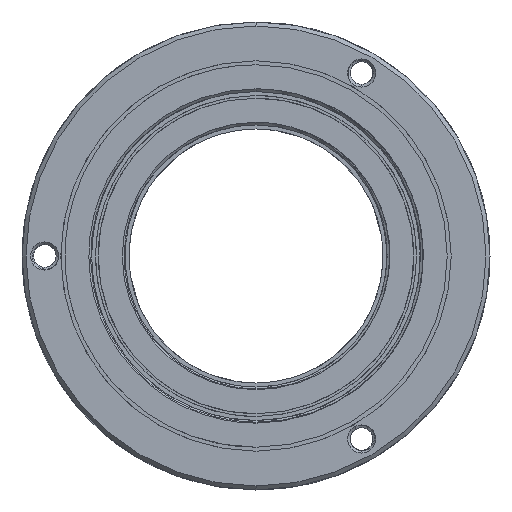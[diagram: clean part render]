
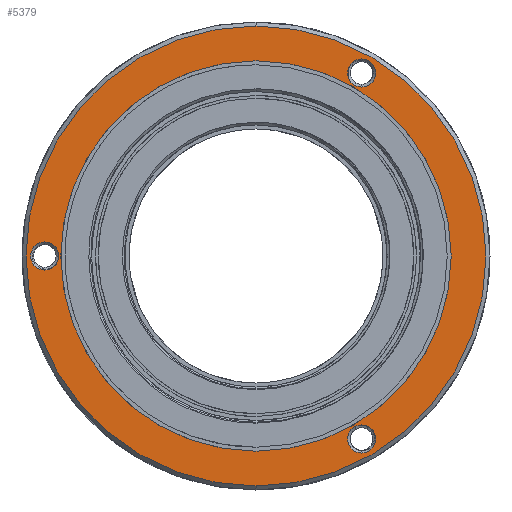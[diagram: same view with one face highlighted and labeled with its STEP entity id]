
A CAD part, left-side view. The second image highlights one B-rep face of the part: STEP entity #5379.
In plain terms, the highlighted planar face has unit normal (-1, 0, 0).
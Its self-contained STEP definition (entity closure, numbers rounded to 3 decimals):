
#85 = EDGE_CURVE ( 'NONE', #23357, #7640, #23876, .T. ) ;
#316 = DIRECTION ( 'NONE',  ( 0., 0., -1. ) ) ;
#361 = DIRECTION ( 'NONE',  ( 0., 0., 1. ) ) ;
#1189 = PLANE ( 'NONE',  #7612 ) ;
#1528 = CARTESIAN_POINT ( 'NONE',  ( 9., -7.9, -12.633 ) ) ;
#1700 = VERTEX_POINT ( 'NONE', #2314 ) ;
#1842 = AXIS2_PLACEMENT_3D ( 'NONE', #6564, #19756, #8485 ) ;
#1971 = EDGE_LOOP ( 'NONE', ( #11881, #4829 ) ) ;
#2210 = VERTEX_POINT ( 'NONE', #7116 ) ;
#2314 = CARTESIAN_POINT ( 'NONE',  ( 9., -7.9, -14.733 ) ) ;
#2373 = CARTESIAN_POINT ( 'NONE',  ( 9., 15.8, 0. ) ) ;
#2509 = VERTEX_POINT ( 'NONE', #20626 ) ;
#3102 = CARTESIAN_POINT ( 'NONE',  ( 9., 0., -17.2 ) ) ;
#3136 = EDGE_CURVE ( 'NONE', #2210, #2509, #9412, .T. ) ;
#3149 = CARTESIAN_POINT ( 'NONE',  ( 9., 17.5, 0. ) ) ;
#3241 = CARTESIAN_POINT ( 'NONE',  ( 9., 0., 0. ) ) ;
#4098 = ORIENTED_EDGE ( 'NONE', *, *, #85, .F. ) ;
#4147 = AXIS2_PLACEMENT_3D ( 'NONE', #22858, #11593, #361 ) ;
#4236 = DIRECTION ( 'NONE',  ( 0., 0., 1. ) ) ;
#4776 = AXIS2_PLACEMENT_3D ( 'NONE', #22815, #11557, #316 ) ;
#4816 = CARTESIAN_POINT ( 'NONE',  ( 9., -7.9, -13.683 ) ) ;
#4818 = AXIS2_PLACEMENT_3D ( 'NONE', #5707, #18878, #7619 ) ;
#4829 = ORIENTED_EDGE ( 'NONE', *, *, #20375, .F. ) ;
#4840 = DIRECTION ( 'NONE',  ( -1., 0., 0. ) ) ;
#4854 = CARTESIAN_POINT ( 'NONE',  ( 9., -7.9, 14.733 ) ) ;
#5031 = DIRECTION ( 'NONE',  ( 0., 0., -1. ) ) ;
#5113 = DIRECTION ( 'NONE',  ( 0., 0., -1. ) ) ;
#5379 = ADVANCED_FACE ( 'NONE', ( #13989, #19011, #9014, #18415, #13395 ), #1189, .F. ) ;
#5707 = CARTESIAN_POINT ( 'NONE',  ( 9., 15.8, 0. ) ) ;
#5725 = VERTEX_POINT ( 'NONE', #22414 ) ;
#5734 = VERTEX_POINT ( 'NONE', #11238 ) ;
#5833 = DIRECTION ( 'NONE',  ( -1., 0., 0. ) ) ;
#6564 = CARTESIAN_POINT ( 'NONE',  ( 9., -7.9, -13.683 ) ) ;
#6700 = DIRECTION ( 'NONE',  ( 0., 0., 1. ) ) ;
#7082 = ORIENTED_EDGE ( 'NONE', *, *, #11158, .F. ) ;
#7116 = CARTESIAN_POINT ( 'NONE',  ( 9., 0., 14.6 ) ) ;
#7202 = ORIENTED_EDGE ( 'NONE', *, *, #20725, .F. ) ;
#7612 = AXIS2_PLACEMENT_3D ( 'NONE', #3149, #16277, #5031 ) ;
#7619 = DIRECTION ( 'NONE',  ( 0., 0., 1. ) ) ;
#7640 = VERTEX_POINT ( 'NONE', #4854 ) ;
#7672 = CARTESIAN_POINT ( 'NONE',  ( 9., 0., 0. ) ) ;
#7854 = CIRCLE ( 'NONE', #4776, 17.2 ) ;
#8485 = DIRECTION ( 'NONE',  ( 0., 0., 1. ) ) ;
#9014 = FACE_BOUND ( 'NONE', #10460, .T. ) ;
#9412 = CIRCLE ( 'NONE', #4147, 14.6 ) ;
#9572 = DIRECTION ( 'NONE',  ( 0., 0., 1. ) ) ;
#10013 = AXIS2_PLACEMENT_3D ( 'NONE', #7672, #20830, #9572 ) ;
#10460 = EDGE_LOOP ( 'NONE', ( #21957, #14307 ) ) ;
#10771 = EDGE_CURVE ( 'NONE', #7640, #23357, #11122, .T. ) ;
#11122 = CIRCLE ( 'NONE', #19574, 1.05 ) ;
#11158 = EDGE_CURVE ( 'NONE', #11458, #5734, #7854, .T. ) ;
#11201 = EDGE_CURVE ( 'NONE', #24246, #5725, #19336, .T. ) ;
#11238 = CARTESIAN_POINT ( 'NONE',  ( 9., 0., 17.2 ) ) ;
#11389 = EDGE_CURVE ( 'NONE', #1700, #16698, #14748, .T. ) ;
#11454 = CARTESIAN_POINT ( 'NONE',  ( 9., -7.9, 13.683 ) ) ;
#11458 = VERTEX_POINT ( 'NONE', #3102 ) ;
#11557 = DIRECTION ( 'NONE',  ( 1., 0., 0. ) ) ;
#11576 = CIRCLE ( 'NONE', #10013, 14.6 ) ;
#11593 = DIRECTION ( 'NONE',  ( -1., 0., 0. ) ) ;
#11881 = ORIENTED_EDGE ( 'NONE', *, *, #3136, .F. ) ;
#13292 = AXIS2_PLACEMENT_3D ( 'NONE', #3241, #16361, #5113 ) ;
#13293 = CARTESIAN_POINT ( 'NONE',  ( 9., 15.8, 1.05 ) ) ;
#13395 = FACE_OUTER_BOUND ( 'NONE', #13563, .T. ) ;
#13563 = EDGE_LOOP ( 'NONE', ( #7082, #7202 ) ) ;
#13989 = FACE_BOUND ( 'NONE', #1971, .T. ) ;
#14021 = ORIENTED_EDGE ( 'NONE', *, *, #21384, .F. ) ;
#14307 = ORIENTED_EDGE ( 'NONE', *, *, #11389, .F. ) ;
#14412 = ORIENTED_EDGE ( 'NONE', *, *, #11201, .F. ) ;
#14748 = CIRCLE ( 'NONE', #17629, 1.05 ) ;
#15097 = EDGE_CURVE ( 'NONE', #16698, #1700, #23149, .T. ) ;
#15480 = DIRECTION ( 'NONE',  ( -1., 0., 0. ) ) ;
#16095 = CARTESIAN_POINT ( 'NONE',  ( 9., -7.9, 13.683 ) ) ;
#16105 = AXIS2_PLACEMENT_3D ( 'NONE', #2373, #15480, #4236 ) ;
#16277 = DIRECTION ( 'NONE',  ( 1., 0., 0. ) ) ;
#16361 = DIRECTION ( 'NONE',  ( 1., 0., 0. ) ) ;
#16698 = VERTEX_POINT ( 'NONE', #1528 ) ;
#17175 = EDGE_LOOP ( 'NONE', ( #24310, #4098 ) ) ;
#17629 = AXIS2_PLACEMENT_3D ( 'NONE', #4816, #17977, #6700 ) ;
#17977 = DIRECTION ( 'NONE',  ( -1., 0., 0. ) ) ;
#18006 = DIRECTION ( 'NONE',  ( 0., 0., 1. ) ) ;
#18389 = CARTESIAN_POINT ( 'NONE',  ( 9., -7.9, 12.633 ) ) ;
#18415 = FACE_BOUND ( 'NONE', #17175, .T. ) ;
#18878 = DIRECTION ( 'NONE',  ( -1., 0., 0. ) ) ;
#19011 = FACE_BOUND ( 'NONE', #24002, .T. ) ;
#19336 = CIRCLE ( 'NONE', #16105, 1.05 ) ;
#19574 = AXIS2_PLACEMENT_3D ( 'NONE', #16095, #4840, #18006 ) ;
#19756 = DIRECTION ( 'NONE',  ( -1., 0., 0. ) ) ;
#20267 = AXIS2_PLACEMENT_3D ( 'NONE', #11454, #5833, #22786 ) ;
#20375 = EDGE_CURVE ( 'NONE', #2509, #2210, #11576, .T. ) ;
#20626 = CARTESIAN_POINT ( 'NONE',  ( 9., 0., -14.6 ) ) ;
#20725 = EDGE_CURVE ( 'NONE', #5734, #11458, #21750, .T. ) ;
#20830 = DIRECTION ( 'NONE',  ( -1., 0., 0. ) ) ;
#21124 = CIRCLE ( 'NONE', #4818, 1.05 ) ;
#21384 = EDGE_CURVE ( 'NONE', #5725, #24246, #21124, .T. ) ;
#21750 = CIRCLE ( 'NONE', #13292, 17.2 ) ;
#21957 = ORIENTED_EDGE ( 'NONE', *, *, #15097, .F. ) ;
#22414 = CARTESIAN_POINT ( 'NONE',  ( 9., 15.8, -1.05 ) ) ;
#22786 = DIRECTION ( 'NONE',  ( 0., 0., 1. ) ) ;
#22815 = CARTESIAN_POINT ( 'NONE',  ( 9., 0., 0. ) ) ;
#22858 = CARTESIAN_POINT ( 'NONE',  ( 9., 0., 0. ) ) ;
#23149 = CIRCLE ( 'NONE', #1842, 1.05 ) ;
#23357 = VERTEX_POINT ( 'NONE', #18389 ) ;
#23876 = CIRCLE ( 'NONE', #20267, 1.05 ) ;
#24002 = EDGE_LOOP ( 'NONE', ( #14412, #14021 ) ) ;
#24246 = VERTEX_POINT ( 'NONE', #13293 ) ;
#24310 = ORIENTED_EDGE ( 'NONE', *, *, #10771, .F. ) ;
